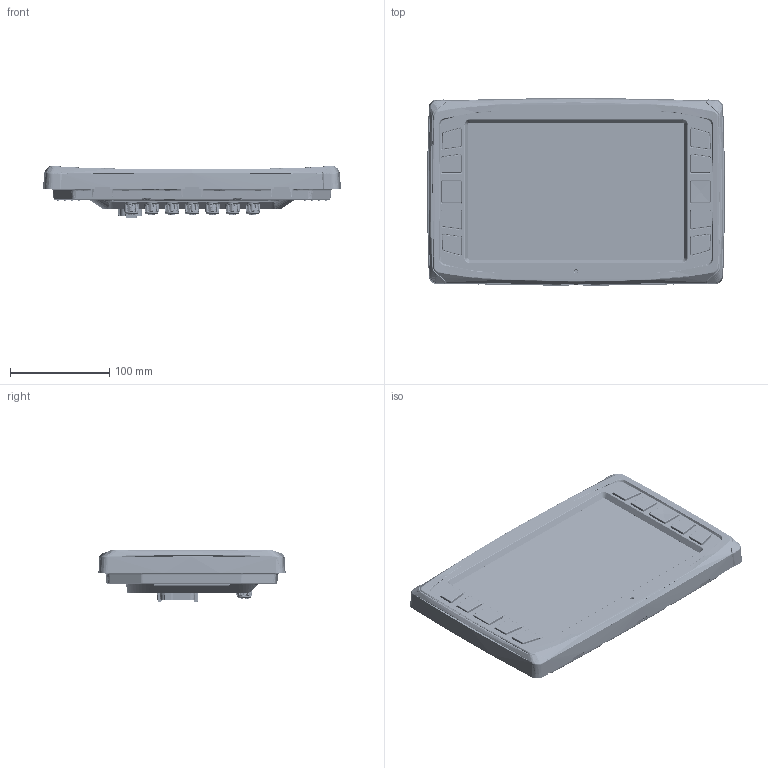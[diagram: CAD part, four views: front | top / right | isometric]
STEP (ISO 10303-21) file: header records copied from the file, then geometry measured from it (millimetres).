
FILE_DESCRIPTION (( 'STEP AP203' ), '1' );
FILE_NAME ('CL-712.STEP', '2016-04-14T14:11:05', ( '' ), ( '' ), 'SwSTEP 2.0', 'SolidWorks 2015', '' );
FILE_SCHEMA (( 'CONFIG_CONTROL_DESIGN' ));
Products named in the file (1): CL-712
Bounding box: 300.03 x 188.7 x 52.99 mm (x, y, z)
Volume: 551691.5 mm3; surface area: 636170.2 mm2
Topology: 50 solids, 50 shells, 14557 faces, 38361 edges, 24183 vertices
Faces by surface type: bspline 5375, cylinder 3631, plane 2838, cone 1212, torus 999, sphere 502
Entity records: 667906 total; most frequent: CARTESIAN_POINT 357016, ORIENTED_EDGE 76302, DIRECTION 49576, EDGE_CURVE 38151, VERTEX_POINT 24166, AXIS2_PLACEMENT_3D 20042, B_SPLINE_CURVE_WITH_KNOTS 15265, EDGE_LOOP 15235
